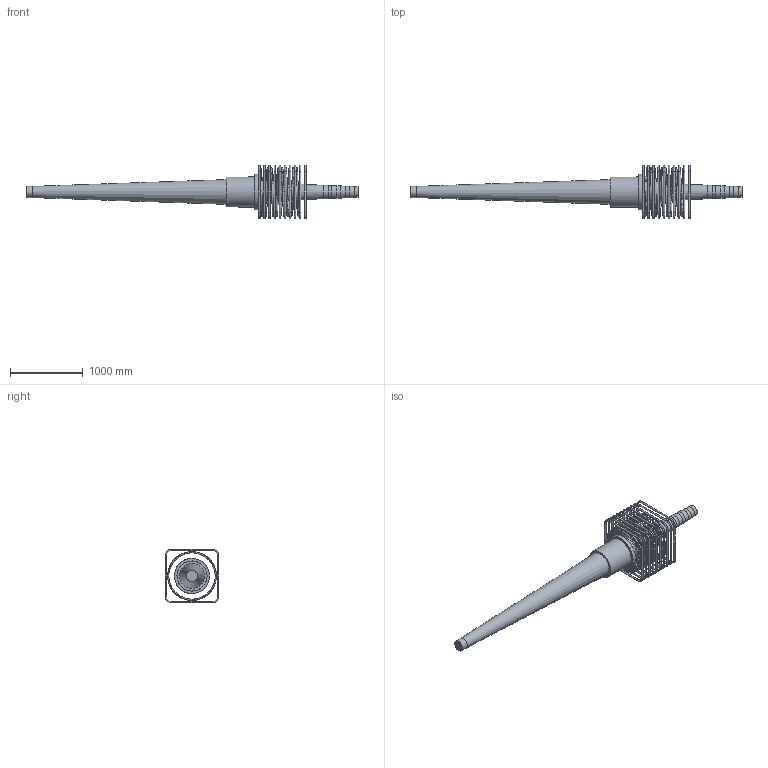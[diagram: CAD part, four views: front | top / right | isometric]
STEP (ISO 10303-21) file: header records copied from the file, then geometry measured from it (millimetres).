
FILE_DESCRIPTION(/* description */ (''),/* implementation_level */ '2;1');
FILE_NAME(/* name */ 'Z:\04 Publications\05 Give-out\BBR\6_3D_Models\BBR VT CONA CMI\BBR VT CONA CMI BT\04306\BBR VT CONA CMI BT 4306_Coupler H Assembly_CS-34,28.stp',/* time_stamp */ '2017-05-05T11:02:57+02:00',/* author */ ('IP'),/* organization */ (''),/* preprocessor_version */ 'ST-DEVELOPER v16.1',/* originating_system */ 'Autodesk Inventor 2016',/* authorisation */ '');
FILE_SCHEMA (('AUTOMOTIVE_DESIGN { 1 0 10303 214 3 1 1 }'));
Length unit declared in the file: millimetre
Products named in the file (1): BBR VT CONA CMI BT 4306_Coupler H Assembly_CS-34,28
Bounding box: 4569.36 x 740 x 740 mm (x, y, z)
Volume: 266829375 mm3; surface area: 7033060.7 mm2
Topology: 12 solids, 12 shells, 897 faces, 2329 edges, 1503 vertices
Faces by surface type: bspline 370, plane 311, cylinder 126, torus 76, cone 12, sphere 2
Full cylindrical faces by diameter (mm): 20 x40, 35 x1, 57 x1, 149 x1, 155 x1, 159 x1, 169 x1, 179 x1, 282 x1, 377 x1, 390 x1, 413 x1, 485 x1
Entity records: 39491 total; most frequent: CARTESIAN_POINT 19949, ORIENTED_EDGE 4382, DIRECTION 3002, EDGE_CURVE 2191, VERTEX_POINT 1495, EDGE_LOOP 1096, AXIS2_PLACEMENT_3D 1037, LINE 928
